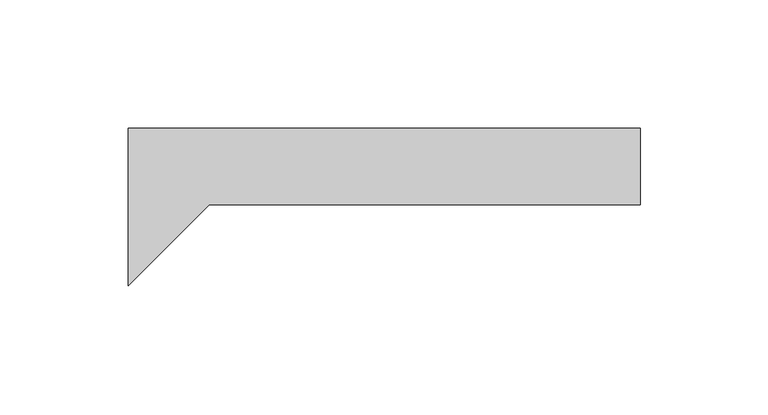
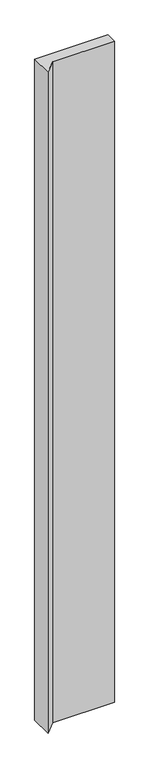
"""IFC4 building model written with IfcOpenShell, lengths in millimetres: plate geometry, ATELIERS 3S_EPURE CDB 200_VERTICAL : AZURO."""

from ifc_helpers import new_model, si_unit, origin, origin_with_axes, place, context, project, spatial, polyline, outline, extrude, source, transform, mapped, element, save


def plate_025053fb(model_context):
    return source(origin(), model_context, "Body", "SweptSolid", [
        extrude(outline(polyline([(100.0, -29.9980469), (-68.2928848, -29.9980469), (-100.0, -61.705162), (-100.0, 0.0), (100.0, 0.0), (100.0, -29.9980469)])), origin_with_axes(), (0.0, 0.0, 1.0), 1900.0),
    ])


if __name__ == "__main__":
    model = new_model("IFC4")
    model_context = context("Model", 3, world=origin())
    ifc_project = project(units=[si_unit("LENGTHUNIT", "METRE", prefix="MILLI")], contexts=[model_context])
    site = spatial("IfcSite", under=ifc_project)
    building = spatial("IfcBuilding", under=site)
    placement = place(None, origin())
    plate_shape = plate_025053fb(model_context)
    element("IfcPlate", 1, ObjectType="ATELIERS 3S_EPURE CDB 200_VERTICAL : AZURO", at=placement, inside=building, context=model_context, shape_type="MappedRepresentation", body=[
        mapped(plate_shape, transform((0.0, 0.0, 0.0), x_axis=(1.0, 0.0, 0.0), y_axis=(0.0, 1.0, 0.0), z_axis=(0.0, 0.0, 1.0))),
    ])
    save(model, "model.ifc")
